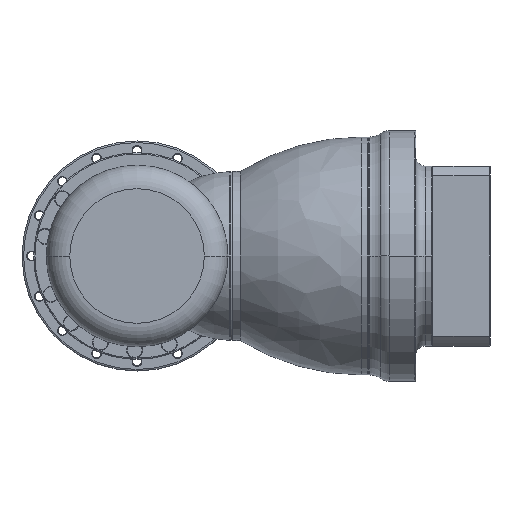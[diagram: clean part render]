
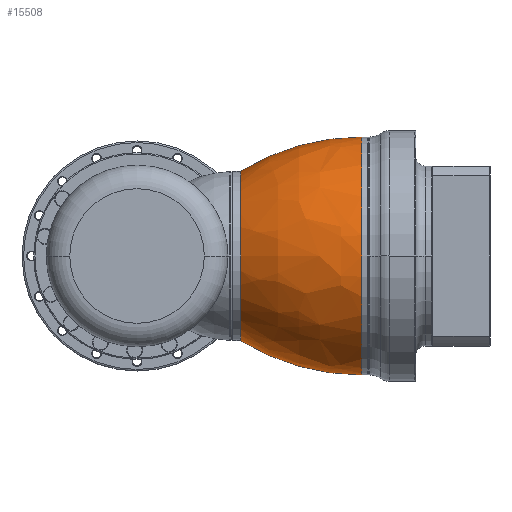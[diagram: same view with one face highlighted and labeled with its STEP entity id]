
A CAD part, left-side view. The second image highlights one B-rep face of the part: STEP entity #15508.
In plain terms, the highlighted free-form (B-spline) face has degree [3, 3] with [7, 4] control points.
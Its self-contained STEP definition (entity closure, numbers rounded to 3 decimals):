
#15214=CARTESIAN_POINT('',(-4.,0.,0.));
#15215=DIRECTION('',(1.,0.,0.));
#15216=DIRECTION('',(0.,-1.,0.));
#15217=AXIS2_PLACEMENT_3D('',#15214,#15215,#15216);
#15238=CARTESIAN_POINT('',(-4.,-71.506,0.));
#15239=DIRECTION('',(0.,0.,-1.));
#15240=DIRECTION('',(-0.525,0.851,0.));
#15241=AXIS2_PLACEMENT_3D('',#15238,#15239,#15240);
#15243=CARTESIAN_POINT('',(-4.,71.506,0.));
#15244=DIRECTION('',(0.,0.,1.));
#15245=DIRECTION('',(-0.525,-0.851,0.));
#15246=AXIS2_PLACEMENT_3D('',#15243,#15244,#15245);
#15258=CARTESIAN_POINT('',(-81.38,0.,0.));
#15259=DIRECTION('',(-1.,0.,0.));
#15260=DIRECTION('',(0.,1.,0.));
#15261=AXIS2_PLACEMENT_3D('',#15258,#15259,#15260);
#15309=CARTESIAN_POINT('',(-4.,76.,0.));
#15310=CARTESIAN_POINT('',(-4.,-76.,0.));
#15311=VERTEX_POINT('',#15309);
#15312=VERTEX_POINT('',#15310);
#15313=CARTESIAN_POINT('',(-81.38,54.074,0.));
#15314=CARTESIAN_POINT('',(-81.38,-54.074,0.));
#15315=VERTEX_POINT('',#15313);
#15316=VERTEX_POINT('',#15314);
#15473=CARTESIAN_POINT('',(-2.371,75.841,
4.772));
#15474=CARTESIAN_POINT('',(-31.003,76.157,
4.791));
#15475=CARTESIAN_POINT('',(-58.552,68.366,
4.301));
#15476=CARTESIAN_POINT('',(-82.762,53.107,
3.341));
#15477=CARTESIAN_POINT('',(-2.371,78.777,
-41.901));
#15478=CARTESIAN_POINT('',(-31.003,79.105,
-42.075));
#15479=CARTESIAN_POINT('',(-58.552,71.013,
-37.771));
#15480=CARTESIAN_POINT('',(-82.762,55.163,
-29.341));
#15481=CARTESIAN_POINT('',(-2.371,46.765,
-75.991));
#15482=CARTESIAN_POINT('',(-31.003,46.959,
-76.307));
#15483=CARTESIAN_POINT('',(-58.552,42.156,
-68.501));
#15484=CARTESIAN_POINT('',(-82.762,32.747,
-53.212));
#15485=CARTESIAN_POINT('',(-2.371,0.,
-75.991));
#15486=CARTESIAN_POINT('',(-31.003,0.,-76.307));
#15487=CARTESIAN_POINT('',(-58.552,0.,
-68.501));
#15488=CARTESIAN_POINT('',(-82.762,0.,-53.212));
#15489=CARTESIAN_POINT('',(-2.371,-46.765,
-75.991));
#15490=CARTESIAN_POINT('',(-31.003,-46.959,
-76.307));
#15491=CARTESIAN_POINT('',(-58.552,-42.156,
-68.501));
#15492=CARTESIAN_POINT('',(-82.762,-32.747,
-53.212));
#15493=CARTESIAN_POINT('',(-2.371,-78.777,
-41.901));
#15494=CARTESIAN_POINT('',(-31.003,-79.105,
-42.075));
#15495=CARTESIAN_POINT('',(-58.552,-71.013,
-37.771));
#15496=CARTESIAN_POINT('',(-82.762,-55.163,
-29.341));
#15497=CARTESIAN_POINT('',(-2.371,-75.841,
4.772));
#15498=CARTESIAN_POINT('',(-31.003,-76.157,
4.791));
#15499=CARTESIAN_POINT('',(-58.552,-68.366,
4.301));
#15500=CARTESIAN_POINT('',(-82.762,-53.107,
3.341));
#15501=(BOUNDED_SURFACE()B_SPLINE_SURFACE(3,3,((#15473,#15474,#15475,#15476),(
#15477,#15478,#15479,#15480),(#15481,#15482,#15483,#15484),(#15485,#15486,
#15487,#15488),(#15489,#15490,#15491,#15492),(#15493,#15494,#15495,#15496),(
#15497,#15498,#15499,#15500)),.UNSPECIFIED.,.F.,.F.,.F.)B_SPLINE_SURFACE_WITH_KNOTS((4,3,4),(4,4),(0.,1.,2.),(0.,1.),.UNSPECIFIED.)GEOMETRIC_REPRESENTATION_ITEM()RATIONAL_B_SPLINE_SURFACE(((1.212,1.179,
1.179,1.212),(0.957,0.931,
0.931,0.957),(0.957,0.931,
0.931,0.957),(1.212,1.179,
1.179,1.212),(0.957,0.931,
0.931,0.957),(0.957,0.931,
0.931,0.957),(1.212,1.179,
1.179,1.212)))REPRESENTATION_ITEM('')SURFACE());
#15502=ORIENTED_EDGE('',*,*,#15464,.T.);
#15503=ORIENTED_EDGE('',*,*,#15439,.T.);
#15504=ORIENTED_EDGE('',*,*,#15385,.T.);
#15505=ORIENTED_EDGE('',*,*,#15436,.F.);
#15506=EDGE_LOOP('',(#15502,#15503,#15504,#15505));
#15507=FACE_OUTER_BOUND('',#15506,.F.);
#15508=ADVANCED_FACE('',(#15507),#15501,.T.);
#15218=CIRCLE('',#15217,76.);
#15242=CIRCLE('',#15241,147.506);
#15247=CIRCLE('',#15246,147.506);
#15262=CIRCLE('',#15261,54.074);
#15385=EDGE_CURVE('',#15312,#15311,#15218,.T.);
#15436=EDGE_CURVE('',#15315,#15311,#15242,.T.);
#15439=EDGE_CURVE('',#15316,#15312,#15247,.T.);
#15464=EDGE_CURVE('',#15315,#15316,#15262,.T.);
